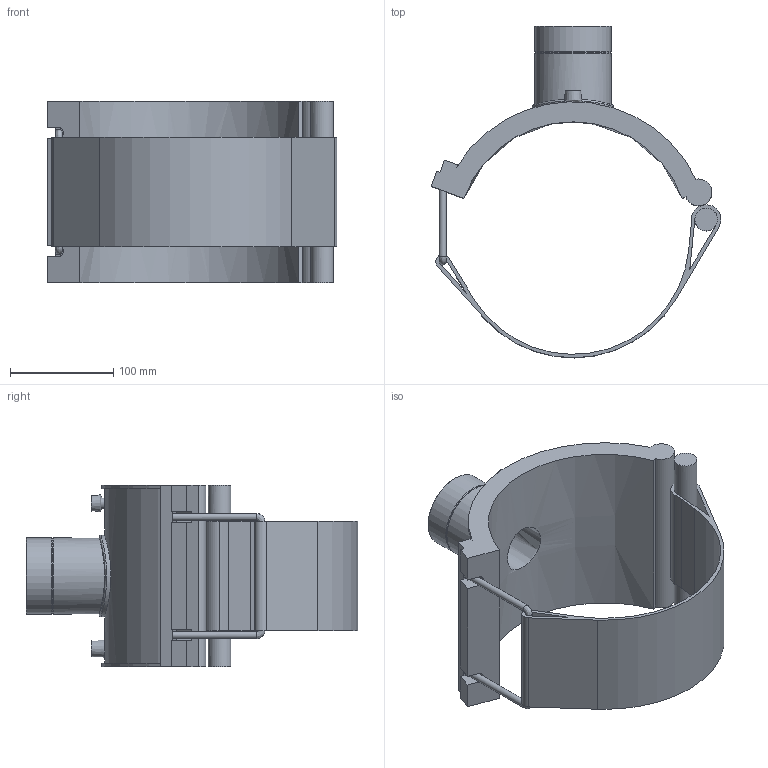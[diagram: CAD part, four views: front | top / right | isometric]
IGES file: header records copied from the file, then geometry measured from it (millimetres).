
Global section: file name: 493804225020.ipt; native system: Autodesk Inventor 2015; preprocessor: unknown; author: KIM; date: 20171106.094114; units: millimetre
Bounding box: 280.61 x 321.24 x 176 mm (x, y, z)
Volume: 1435796.3 mm3; surface area: 294369.2 mm2
Topology: 2 solids, 2 shells, 80 faces, 200 edges, 128 vertices
Faces by surface type: plane 44, cylinder 19, revolution 11, cone 5, bspline 1
Full cylindrical faces by diameter (mm): 4 x2, 6.75 x2, 21.808 x1, 72.653 x1, 73.653 x2, 79.318 x1
